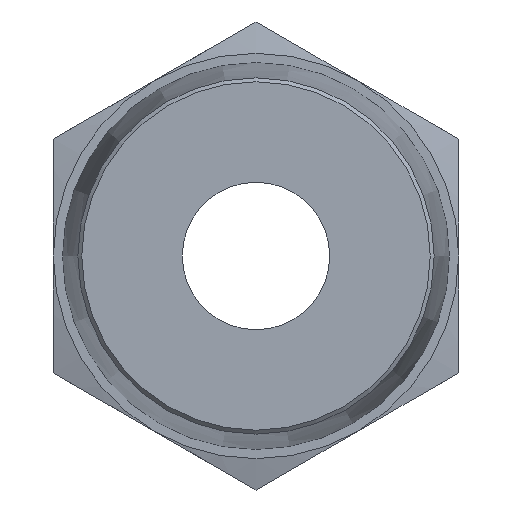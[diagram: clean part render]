
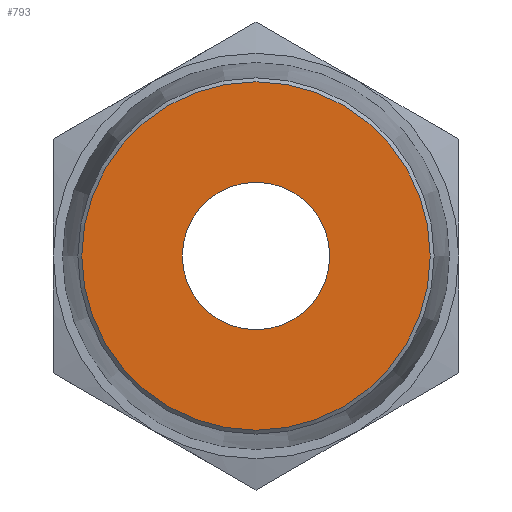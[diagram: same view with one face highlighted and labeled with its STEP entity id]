
A CAD part, front view. The second image highlights one B-rep face of the part: STEP entity #793.
In plain terms, the highlighted planar face has unit normal (0, -1, 0).
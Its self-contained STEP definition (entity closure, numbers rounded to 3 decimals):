
#15=FACE_BOUND('',#142,.T.);
#92=FACE_OUTER_BOUND('',#141,.T.);
#141=EDGE_LOOP('',(#611));
#142=EDGE_LOOP('',(#612));
#188=CIRCLE('',#878,9.455);
#190=CIRCLE('',#882,4.);
#370=VERTEX_POINT('',#1311);
#372=VERTEX_POINT('',#1319);
#461=EDGE_CURVE('',#370,#370,#188,.T.);
#464=EDGE_CURVE('',#372,#372,#190,.T.);
#611=ORIENTED_EDGE('',*,*,#461,.F.);
#612=ORIENTED_EDGE('',*,*,#464,.T.);
#761=PLANE('',#881);
#793=ADVANCED_FACE('',(#92,#15),#761,.T.);
#878=AXIS2_PLACEMENT_3D('',#1313,#1045,#1046);
#881=AXIS2_PLACEMENT_3D('',#1318,#1052,#1053);
#882=AXIS2_PLACEMENT_3D('',#1320,#1054,#1055);
#1045=DIRECTION('center_axis',(0.,1.,0.));
#1046=DIRECTION('ref_axis',(-1.,0.,0.));
#1052=DIRECTION('center_axis',(0.,-1.,0.));
#1053=DIRECTION('ref_axis',(0.,0.,-1.));
#1054=DIRECTION('center_axis',(0.,1.,0.));
#1055=DIRECTION('ref_axis',(1.,0.,0.));
#1311=CARTESIAN_POINT('',(9.455,-13.5,0.));
#1313=CARTESIAN_POINT('Origin',(0.,-13.5,0.));
#1318=CARTESIAN_POINT('Origin',(9.655,-13.5,0.));
#1319=CARTESIAN_POINT('',(-4.,-13.5,0.));
#1320=CARTESIAN_POINT('Origin',(0.,-13.5,0.));
